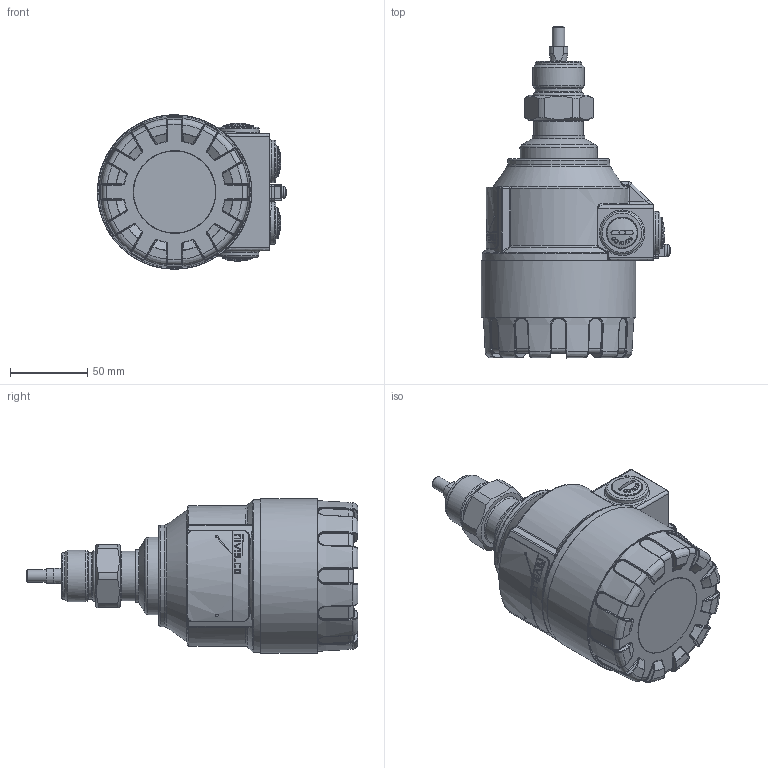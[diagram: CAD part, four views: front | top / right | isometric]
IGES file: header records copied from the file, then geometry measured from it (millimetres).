
Global section: file name: HT_Alu_1 col; native system: Autodesk Inventor 2015; preprocessor: unknown; author: aantal; date: 20150306.111229; units: millimetre
Bounding box: 122.57 x 215 x 100 mm (x, y, z)
Volume: 901166.7 mm3; surface area: 110260.3 mm2
Topology: 12 solids, 12 shells, 1283 faces, 3185 edges, 1970 vertices
Faces by surface type: bspline 1283
